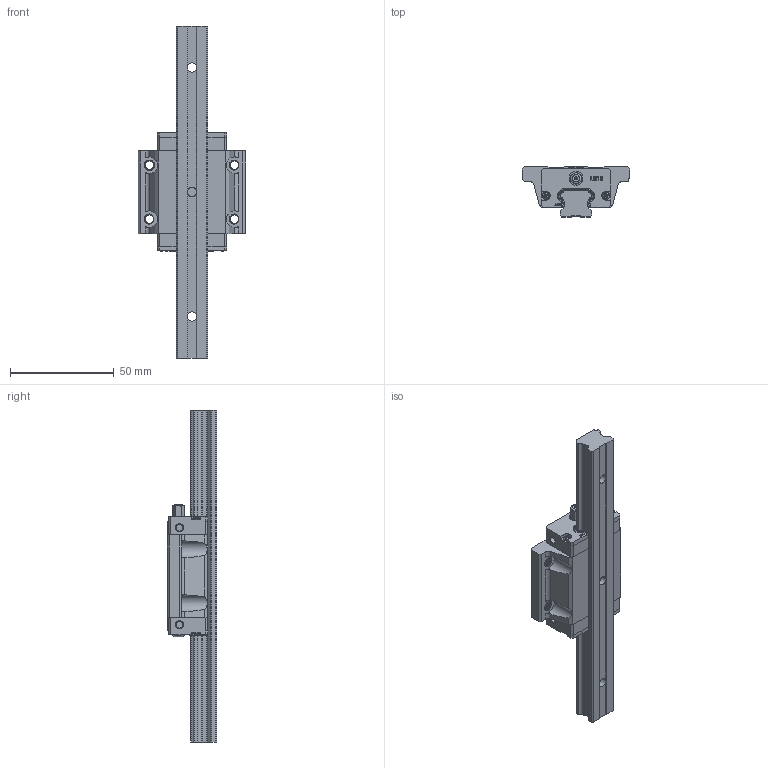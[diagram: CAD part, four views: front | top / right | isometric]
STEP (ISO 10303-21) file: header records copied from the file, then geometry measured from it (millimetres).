
FILE_DESCRIPTION(/* description */ (''),/* implementation_level */ '2;1');
FILE_NAME(/* name */ 'EBW15CA.stp',/* time_stamp */ '2024-09-29T20:43:21+08:00',/* author */ (''),/* organization */ (''),/* preprocessor_version */ 'ST-DEVELOPER v16.7',/* originating_system */ 'SIEMENS PLM Software NX 12.0',/* authorisation */ '');
FILE_SCHEMA (('AUTOMOTIVE_DESIGN { 1 0 10303 214 3 1 1 1 }'));
Length unit declared in the file: millimetre
Products named in the file (3): EBW15CA; EBR15; EBW15CA_stp
Assembly tree (2 placements, depth 2):
  EBW15CA_stp
    EBR15
    EBW15CA
Bounding box: 52 x 24 x 160 mm (x, y, z)
Volume: 61863.1 mm3; surface area: 21085.6 mm2
Topology: 2 solids, 2 shells, 844 faces, 2292 edges, 1504 vertices
Faces by surface type: plane 513, cylinder 164, extrusion 103, cone 43, bspline 14, torus 7
Full cylindrical faces by diameter (mm): 1.5 x1, 3.3 x4, 3.9 x1, 4 x1, 6 x1, 6.7 x2
Entity records: 43625 total; most frequent: CARTESIAN_POINT 17725, ORIENTED_EDGE 4498, DIRECTION 3822, EDGE_CURVE 2249, VECTOR 1514, VERTEX_POINT 1493, LINE 1411, AXIS2_PLACEMENT_3D 1154
